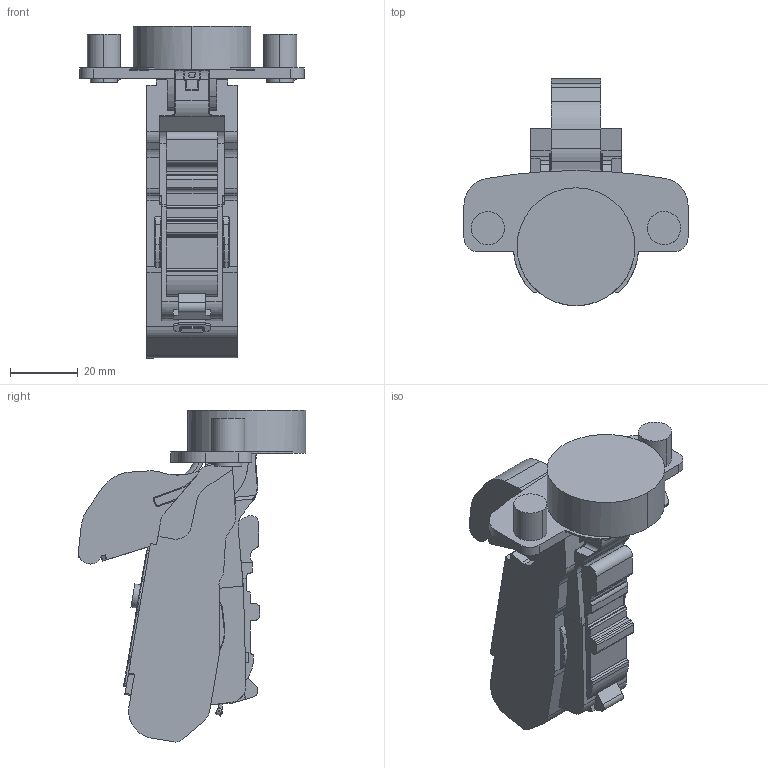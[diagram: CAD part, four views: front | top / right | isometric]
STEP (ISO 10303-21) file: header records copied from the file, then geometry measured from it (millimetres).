
FILE_DESCRIPTION (( 'STEP AP203' ), '1' );
FILE_NAME ('C81A807T0FAB DTC 3D CLOSE.STEP', '2024-07-30T02:05:30', ( '微软用户' ), ( '微软中国' ), 'SwSTEP 2.0', 'SolidWorks 2021', '' );
FILE_SCHEMA (( 'CONFIG_CONTROL_DESIGN' ));
Length unit declared in the file: millimetre
Products named in the file (1): C81A807T0FAB DTC 3D CLOSE
Bounding box: 66.2 x 67.21 x 98.04 mm (x, y, z)
Volume: 82492.7 mm3; surface area: 19451.5 mm2
Topology: 1 solids, 9 shells, 762 faces, 2087 edges, 1348 vertices
Faces by surface type: plane 323, cylinder 315, torus 93, bspline 20, sphere 11
Entity records: 25725 total; most frequent: CARTESIAN_POINT 6323, ORIENTED_EDGE 4170, DIRECTION 4045, EDGE_CURVE 2085, AXIS2_PLACEMENT_3D 1442, VERTEX_POINT 1348, VECTOR 1161, LINE 1161
